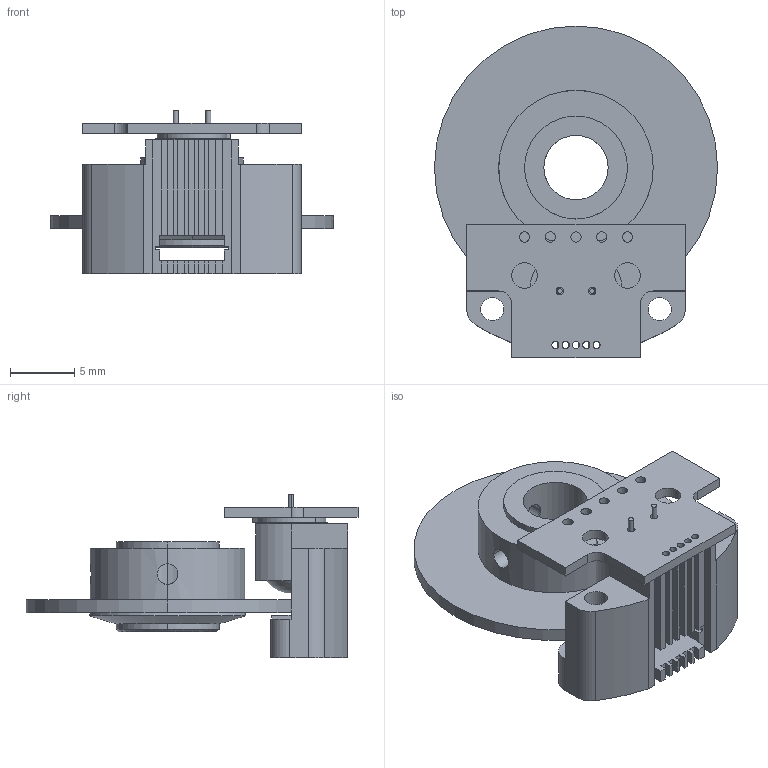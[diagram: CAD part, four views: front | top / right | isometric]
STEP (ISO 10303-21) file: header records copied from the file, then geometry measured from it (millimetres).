
FILE_DESCRIPTION(('STEP AP203'),'1');
FILE_NAME('//192.168.0.150/share/技術部/図面フォルダ（メンバー共用）/外形図データ/step/MG-20.step','2017-03-31T10:13:21',(' '),(' '),'Spatial InterOp 3D',' ',' ');
FILE_SCHEMA(('CONFIG_CONTROL_DESIGN'));
Length unit declared in the file: millimetre
Products named in the file (9): 1; 2; 3; 4; 5; 6; 7; 8; 9
Bounding box: 22 x 25.8 x 12.7 mm (x, y, z)
Volume: 1480 mm3; surface area: 2897.9 mm2
Topology: 9 solids, 9 shells, 216 faces, 576 edges, 375 vertices
Faces by surface type: plane 119, cylinder 85, cone 10, sphere 2
Entity records: 7368 total; most frequent: CARTESIAN_POINT 1376, DIRECTION 1178, ORIENTED_EDGE 1148, EDGE_CURVE 574, AXIS2_PLACEMENT_3D 393, LINE 392, VECTOR 392, VERTEX_POINT 375
